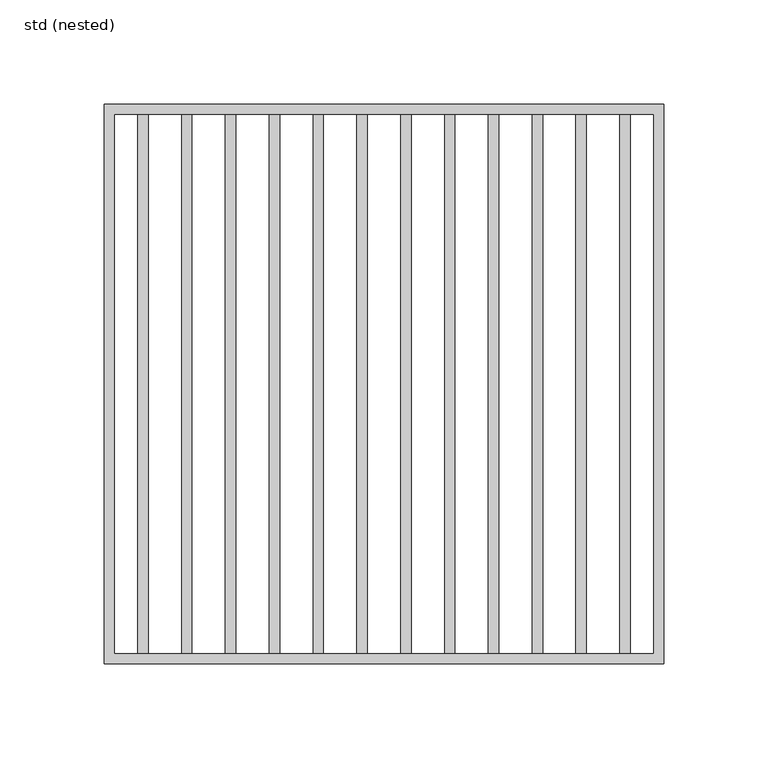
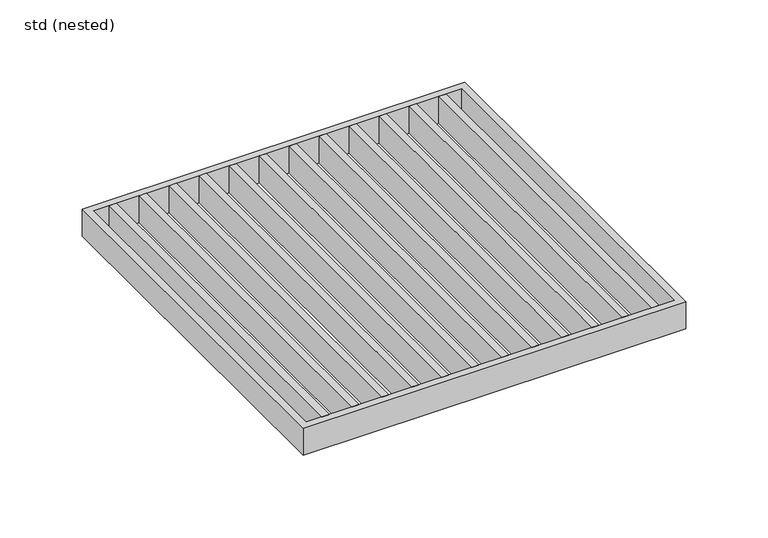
"""IFC4 building model written with IfcOpenShell, lengths in millimetres: sanitary terminal geometry, ZZZ_do not use_PF_ST_UN_square grating for hygienic gully_ACO : std (nested)."""

from ifc_helpers import new_model, si_unit, frame, origin, place, context, project, spatial, polyline, outline, extrude, source, transform, mapped, element, save


def std_nested_f3fa0707(model_context):
    return source(origin(), model_context, "Body", "SweptSolid", [
        extrude(outline(polyline([(-113.0, -129.0), (-118.0, -129.0), (-118.0, 129.0), (-113.0, 129.0), (-113.0, -129.0)])), frame((0.0, 0.0, -20.0), z_axis=(0.0, 0.0, 1.0), x_axis=(1.0, 0.0, 0.0)), (0.0, 0.0, 1.0), 20.0),
        extrude(outline(polyline([(118.0, -129.0), (113.0, -129.0), (113.0, 129.0), (118.0, 129.0), (118.0, -129.0)])), frame((0.0, 0.0, -20.0), z_axis=(0.0, 0.0, 1.0), x_axis=(1.0, 0.0, 0.0)), (0.0, 0.0, 1.0), 20.0),
        extrude(outline(polyline([(-92.0, -129.0), (-97.0, -129.0), (-97.0, 129.0), (-92.0, 129.0), (-92.0, -129.0)])), frame((0.0, 0.0, -20.0), z_axis=(0.0, 0.0, 1.0), x_axis=(1.0, 0.0, 0.0)), (0.0, 0.0, 1.0), 20.0),
        extrude(outline(polyline([(-71.0, -129.0), (-76.0, -129.0), (-76.0, 129.0), (-71.0, 129.0), (-71.0, -129.0)])), frame((0.0, 0.0, -20.0), z_axis=(0.0, 0.0, 1.0), x_axis=(1.0, 0.0, 0.0)), (0.0, 0.0, 1.0), 20.0),
        extrude(outline(polyline([(-50.0, -129.0), (-55.0, -129.0), (-55.0, 129.0), (-50.0, 129.0), (-50.0, -129.0)])), frame((0.0, 0.0, -20.0), z_axis=(0.0, 0.0, 1.0), x_axis=(1.0, 0.0, 0.0)), (0.0, 0.0, 1.0), 20.0),
        extrude(outline(polyline([(-29.0, -129.0), (-34.0, -129.0), (-34.0, 129.0), (-29.0, 129.0), (-29.0, -129.0)])), frame((0.0, 0.0, -20.0), z_axis=(0.0, 0.0, 1.0), x_axis=(1.0, 0.0, 0.0)), (0.0, 0.0, 1.0), 20.0),
        extrude(outline(polyline([(97.0, -129.0), (92.0, -129.0), (92.0, 129.0), (97.0, 129.0), (97.0, -129.0)])), frame((0.0, 0.0, -20.0), z_axis=(0.0, 0.0, 1.0), x_axis=(1.0, 0.0, 0.0)), (0.0, 0.0, 1.0), 20.0),
        extrude(outline(polyline([(76.0, -129.0), (71.0, -129.0), (71.0, 129.0), (76.0, 129.0), (76.0, -129.0)])), frame((0.0, 0.0, -20.0), z_axis=(0.0, 0.0, 1.0), x_axis=(1.0, 0.0, 0.0)), (0.0, 0.0, 1.0), 20.0),
        extrude(outline(polyline([(55.0, -129.0), (50.0, -129.0), (50.0, 129.0), (55.0, 129.0), (55.0, -129.0)])), frame((0.0, 0.0, -20.0), z_axis=(0.0, 0.0, 1.0), x_axis=(1.0, 0.0, 0.0)), (0.0, 0.0, 1.0), 20.0),
        extrude(outline(polyline([(34.0, -129.0), (29.0, -129.0), (29.0, 129.0), (34.0, 129.0), (34.0, -129.0)])), frame((0.0, 0.0, -20.0), z_axis=(0.0, 0.0, 1.0), x_axis=(1.0, 0.0, 0.0)), (0.0, 0.0, 1.0), 20.0),
        extrude(outline(polyline([(-8.0, -129.0), (-13.0, -129.0), (-13.0, 129.0), (-8.0, 129.0), (-8.0, -129.0)])), frame((0.0, 0.0, -20.0), z_axis=(0.0, 0.0, 1.0), x_axis=(1.0, 0.0, 0.0)), (0.0, 0.0, 1.0), 20.0),
        extrude(outline(polyline([(13.0, -129.0), (8.0, -129.0), (8.0, 129.0), (13.0, 129.0), (13.0, -129.0)])), frame((0.0, 0.0, -20.0), z_axis=(0.0, 0.0, 1.0), x_axis=(1.0, 0.0, 0.0)), (0.0, 0.0, 1.0), 20.0),
        extrude(outline(polyline([(134.0, 134.0), (134.0, -134.0), (-134.0, -134.0), (-134.0, 134.0), (134.0, 134.0)]), holes=[polyline([(129.0, 129.0), (-129.0, 129.0), (-129.0, -129.0), (129.0, -129.0), (129.0, 129.0)])]), frame((0.0, 0.0, -20.0), z_axis=(0.0, 0.0, 1.0), x_axis=(1.0, 0.0, 0.0)), (0.0, 0.0, 1.0), 20.0),
    ])


if __name__ == "__main__":
    model = new_model("IFC4")
    model_context = context("Model", 3, world=origin())
    ifc_project = project(units=[si_unit("LENGTHUNIT", "METRE", prefix="MILLI")], contexts=[model_context])
    site = spatial("IfcSite", under=ifc_project)
    building = spatial("IfcBuilding", under=site)
    placement = place(None, origin())
    std_nested_shape = std_nested_f3fa0707(model_context)
    element("IfcSanitaryTerminal", 1, ObjectType="ZZZ_do not use_PF_ST_UN_square grating for hygienic gully_ACO : std (nested)", at=placement, inside=building, context=model_context, shape_type="MappedRepresentation", body=[
        mapped(std_nested_shape, transform((0.0, 0.0, 0.0), x_axis=(1.0, 0.0, 0.0), y_axis=(0.0, 1.0, 0.0), z_axis=(0.0, 0.0, 1.0))),
    ])
    save(model, "model.ifc")
